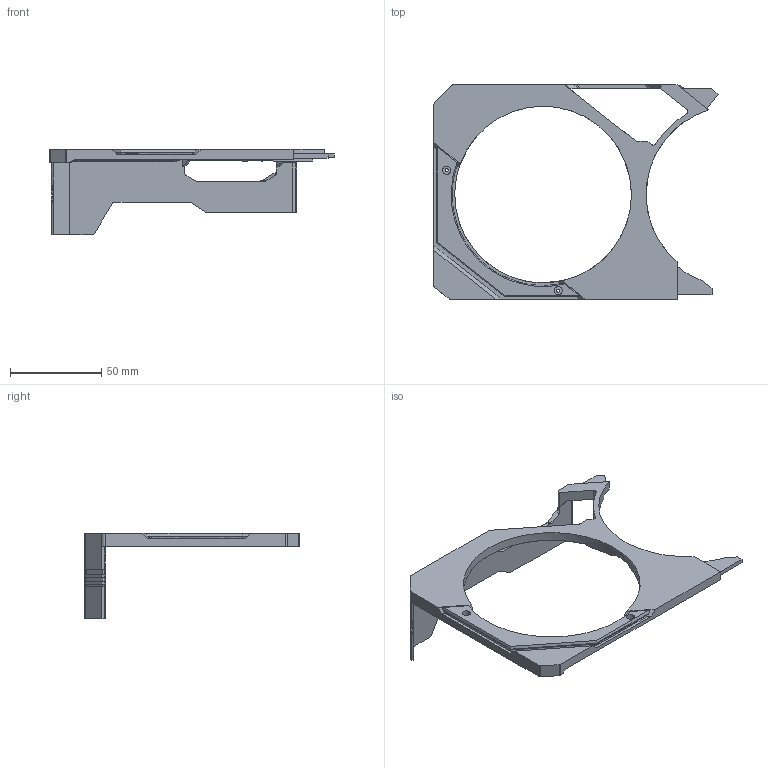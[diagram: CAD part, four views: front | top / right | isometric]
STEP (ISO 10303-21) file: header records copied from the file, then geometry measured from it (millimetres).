
FILE_DESCRIPTION((''),'2;1');
FILE_NAME('C02','2022-10-27T16:07:42',('Kate'),(''),'CREO PARAMETRIC BY PTC INC, 2020281','CREO PARAMETRIC BY PTC INC, 2020281','');
FILE_SCHEMA(('AUTOMOTIVE_DESIGN { 1 0 10303 214 1 1 1 1 }'));
Length unit declared in the file: millimetre
Products named in the file (1): C02
Bounding box: 156.11 x 117.6 x 46.83 mm (x, y, z)
Volume: 36228 mm3; surface area: 27905.3 mm2
Topology: 1 solids, 1 shells, 210 faces, 614 edges, 402 vertices
Faces by surface type: plane 129, cylinder 44, cone 15, torus 12, extrusion 4, bspline 3, revolution 3
Entity records: 9768 total; most frequent: CARTESIAN_POINT 1915, ORIENTED_EDGE 1228, DIRECTION 1048, PRESENTATION_STYLE_ASSIGNMENT 650, STYLED_ITEM 615, CURVE_STYLE 614, EDGE_CURVE 614, VERTEX_POINT 402
